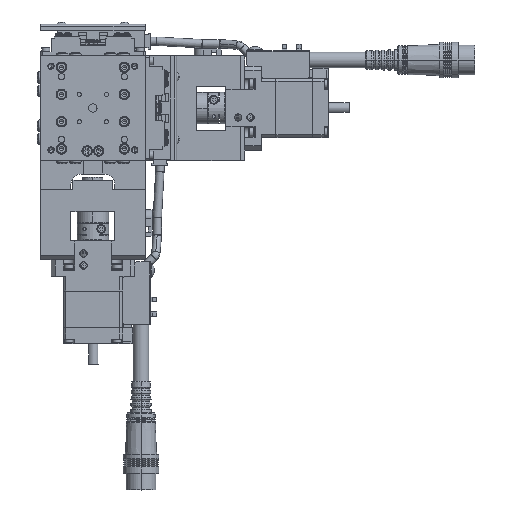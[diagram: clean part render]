
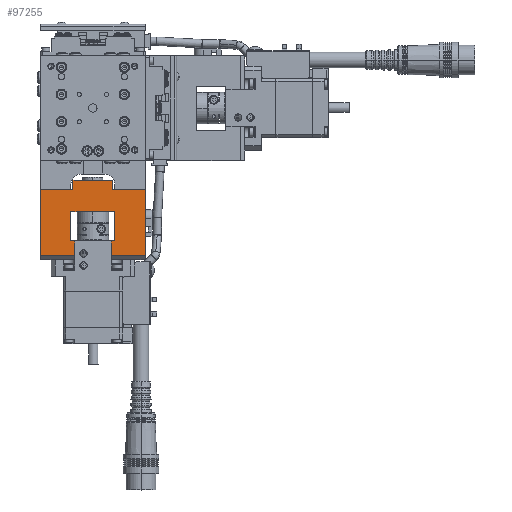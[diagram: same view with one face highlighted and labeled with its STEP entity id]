
A CAD part, top view. The second image highlights one B-rep face of the part: STEP entity #97255.
In plain terms, the highlighted planar face has unit normal (0, 0, 1).
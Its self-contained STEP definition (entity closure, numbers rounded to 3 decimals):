
#432 = DIRECTION ( 'NONE',  ( 0., 0., 1. ) ) ;
#1216 = CARTESIAN_POINT ( 'NONE',  ( -70.5, 8.7, 19.5 ) ) ;
#1342 = CARTESIAN_POINT ( 'NONE',  ( -63.5, 25., 19.5 ) ) ;
#1818 = EDGE_CURVE ( 'NONE', #67215, #54090, #62398, .T. ) ;
#2738 = VECTOR ( 'NONE', #16214, 1000. ) ;
#4122 = VECTOR ( 'NONE', #127087, 1000. ) ;
#4509 = VERTEX_POINT ( 'NONE', #93101 ) ;
#5370 = CARTESIAN_POINT ( 'NONE',  ( -36.75, -9.5, 19.5 ) ) ;
#6045 = CARTESIAN_POINT ( 'NONE',  ( -63.5, 10.5, 19.5 ) ) ;
#6338 = CARTESIAN_POINT ( 'NONE',  ( -70.5, 25., 19.5 ) ) ;
#6468 = DIRECTION ( 'NONE',  ( 0., -1., 0. ) ) ;
#7754 = VERTEX_POINT ( 'NONE', #11234 ) ;
#7864 = CARTESIAN_POINT ( 'NONE',  ( -70.5, -25., 19.5 ) ) ;
#8759 = LINE ( 'NONE', #106724, #109879 ) ;
#9533 = ORIENTED_EDGE ( 'NONE', *, *, #129725, .F. ) ;
#11234 = CARTESIAN_POINT ( 'NONE',  ( -34.5, -9.5, 19.5 ) ) ;
#15376 = LINE ( 'NONE', #6045, #122711 ) ;
#16214 = DIRECTION ( 'NONE',  ( 1., 0., 0. ) ) ;
#16287 = DIRECTION ( 'NONE',  ( 0., 1., 0. ) ) ;
#19554 = VECTOR ( 'NONE', #118898, 1000. ) ;
#20352 = CARTESIAN_POINT ( 'NONE',  ( -63.5, -10.5, 19.5 ) ) ;
#20498 = EDGE_CURVE ( 'NONE', #119091, #82128, #57138, .T. ) ;
#20702 = DIRECTION ( 'NONE',  ( 1., 0., 0. ) ) ;
#21086 = EDGE_CURVE ( 'NONE', #50030, #89975, #50662, .T. ) ;
#21200 = EDGE_CURVE ( 'NONE', #94535, #94541, #80651, .T. ) ;
#21699 = LINE ( 'NONE', #66626, #2738 ) ;
#21986 = PLANE ( 'NONE',  #29981 ) ;
#23200 = CARTESIAN_POINT ( 'NONE',  ( -63.5, -10.5, 19.5 ) ) ;
#23551 = ORIENTED_EDGE ( 'NONE', *, *, #33739, .F. ) ;
#25428 = DIRECTION ( 'NONE',  ( 1., 0., 0. ) ) ;
#26871 = VERTEX_POINT ( 'NONE', #92149 ) ;
#27404 = EDGE_LOOP ( 'NONE', ( #81551, #77213, #79933, #41819, #52484, #93819, #57526, #94349, #108919, #42201, #60903, #129175, #64717, #23551, #9533, #106236 ) ) ;
#29721 = CARTESIAN_POINT ( 'NONE',  ( -63.5, 8.7, 19.5 ) ) ;
#29981 = AXIS2_PLACEMENT_3D ( 'NONE', #1342, #432, #20702 ) ;
#30694 = EDGE_CURVE ( 'NONE', #54090, #84191, #15376, .T. ) ;
#30777 = VECTOR ( 'NONE', #110534, 1000. ) ;
#32990 = DIRECTION ( 'NONE',  ( 1., 0., 0. ) ) ;
#33672 = EDGE_CURVE ( 'NONE', #68950, #82128, #89670, .T. ) ;
#33739 = EDGE_CURVE ( 'NONE', #46252, #7754, #108539, .T. ) ;
#36963 = LINE ( 'NONE', #37775, #19554 ) ;
#37775 = CARTESIAN_POINT ( 'NONE',  ( -68., 8.7, 19.5 ) ) ;
#41707 = EDGE_CURVE ( 'NONE', #89975, #80318, #56717, .T. ) ;
#41819 = ORIENTED_EDGE ( 'NONE', *, *, #1818, .T. ) ;
#42201 = ORIENTED_EDGE ( 'NONE', *, *, #117626, .T. ) ;
#44579 = CARTESIAN_POINT ( 'NONE',  ( -34.5, 0., 19.5 ) ) ;
#46252 = VERTEX_POINT ( 'NONE', #84501 ) ;
#47510 = VECTOR ( 'NONE', #111776, 1000. ) ;
#49898 = LINE ( 'NONE', #5370, #4122 ) ;
#50030 = VERTEX_POINT ( 'NONE', #7864 ) ;
#50662 = LINE ( 'NONE', #108534, #69502 ) ;
#50911 = DIRECTION ( 'NONE',  ( 1., 0., 0. ) ) ;
#52459 = VECTOR ( 'NONE', #106482, 1000. ) ;
#52484 = ORIENTED_EDGE ( 'NONE', *, *, #30694, .T. ) ;
#54090 = VERTEX_POINT ( 'NONE', #112282 ) ;
#54338 = CARTESIAN_POINT ( 'NONE',  ( -63.5, -25., 19.5 ) ) ;
#56698 = CARTESIAN_POINT ( 'NONE',  ( -39., 18.75, 19.5 ) ) ;
#56717 = LINE ( 'NONE', #75956, #125976 ) ;
#57138 = LINE ( 'NONE', #68525, #52459 ) ;
#57169 = CARTESIAN_POINT ( 'NONE',  ( -70.5, 8.7, 19.5 ) ) ;
#57526 = ORIENTED_EDGE ( 'NONE', *, *, #64873, .F. ) ;
#58827 = LINE ( 'NONE', #20352, #123400 ) ;
#59094 = DIRECTION ( 'NONE',  ( 1., 0., 0. ) ) ;
#60903 = ORIENTED_EDGE ( 'NONE', *, *, #21086, .T. ) ;
#62398 = LINE ( 'NONE', #29721, #30777 ) ;
#64717 = ORIENTED_EDGE ( 'NONE', *, *, #72369, .F. ) ;
#64873 = EDGE_CURVE ( 'NONE', #68950, #72812, #58827, .T. ) ;
#66626 = CARTESIAN_POINT ( 'NONE',  ( -36.75, 9.5, 19.5 ) ) ;
#67017 = EDGE_CURVE ( 'NONE', #67215, #94541, #36963, .T. ) ;
#67215 = VERTEX_POINT ( 'NONE', #85408 ) ;
#68525 = CARTESIAN_POINT ( 'NONE',  ( -68., -8.7, 19.5 ) ) ;
#68950 = VERTEX_POINT ( 'NONE', #23200 ) ;
#69502 = VECTOR ( 'NONE', #59094, 1000. ) ;
#70656 = CARTESIAN_POINT ( 'NONE',  ( -49.5, 10.5, 19.5 ) ) ;
#71898 = CARTESIAN_POINT ( 'NONE',  ( -49.5, -10.5, 19.5 ) ) ;
#72369 = EDGE_CURVE ( 'NONE', #7754, #80318, #49898, .T. ) ;
#72812 = VERTEX_POINT ( 'NONE', #71898 ) ;
#75956 = CARTESIAN_POINT ( 'NONE',  ( -39., 18.75, 19.5 ) ) ;
#76743 = DIRECTION ( 'NONE',  ( 0., -1., 0. ) ) ;
#77213 = ORIENTED_EDGE ( 'NONE', *, *, #21200, .T. ) ;
#77793 = DIRECTION ( 'NONE',  ( 0., 1., 0. ) ) ;
#79336 = LINE ( 'NONE', #123379, #115661 ) ;
#79466 = CARTESIAN_POINT ( 'NONE',  ( -70.5, -8.7, 19.5 ) ) ;
#79933 = ORIENTED_EDGE ( 'NONE', *, *, #67017, .F. ) ;
#80318 = VERTEX_POINT ( 'NONE', #116241 ) ;
#80651 = LINE ( 'NONE', #1216, #82192 ) ;
#80863 = CARTESIAN_POINT ( 'NONE',  ( -70.5, -25., 19.5 ) ) ;
#81551 = ORIENTED_EDGE ( 'NONE', *, *, #101664, .F. ) ;
#82128 = VERTEX_POINT ( 'NONE', #88776 ) ;
#82192 = VECTOR ( 'NONE', #121159, 1000. ) ;
#84191 = VERTEX_POINT ( 'NONE', #70656 ) ;
#84501 = CARTESIAN_POINT ( 'NONE',  ( -34.5, 9.5, 19.5 ) ) ;
#85408 = CARTESIAN_POINT ( 'NONE',  ( -63.5, 8.7, 19.5 ) ) ;
#85615 = DIRECTION ( 'NONE',  ( 0., 1., 0. ) ) ;
#85943 = VECTOR ( 'NONE', #77793, 1000. ) ;
#88776 = CARTESIAN_POINT ( 'NONE',  ( -63.5, -8.7, 19.5 ) ) ;
#89670 = LINE ( 'NONE', #54338, #116476 ) ;
#89685 = EDGE_CURVE ( 'NONE', #84191, #72812, #8759, .T. ) ;
#89975 = VERTEX_POINT ( 'NONE', #119777 ) ;
#90384 = EDGE_CURVE ( 'NONE', #4509, #26871, #128507, .T. ) ;
#92149 = CARTESIAN_POINT ( 'NONE',  ( -39., 25., 19.5 ) ) ;
#93101 = CARTESIAN_POINT ( 'NONE',  ( -39., 9.5, 19.5 ) ) ;
#93819 = ORIENTED_EDGE ( 'NONE', *, *, #89685, .T. ) ;
#94349 = ORIENTED_EDGE ( 'NONE', *, *, #33672, .T. ) ;
#94535 = VERTEX_POINT ( 'NONE', #6338 ) ;
#94541 = VERTEX_POINT ( 'NONE', #57169 ) ;
#97255 = ADVANCED_FACE ( 'NONE', ( #115662 ), #21986, .T. ) ;
#101266 = LINE ( 'NONE', #80863, #47510 ) ;
#101664 = EDGE_CURVE ( 'NONE', #94535, #26871, #79336, .T. ) ;
#106236 = ORIENTED_EDGE ( 'NONE', *, *, #90384, .T. ) ;
#106482 = DIRECTION ( 'NONE',  ( 1., 0., 0. ) ) ;
#106724 = CARTESIAN_POINT ( 'NONE',  ( -49.5, 18.75, 19.5 ) ) ;
#106915 = VECTOR ( 'NONE', #76743, 1000. ) ;
#108534 = CARTESIAN_POINT ( 'NONE',  ( -63.5, -25., 19.5 ) ) ;
#108539 = LINE ( 'NONE', #44579, #106915 ) ;
#108919 = ORIENTED_EDGE ( 'NONE', *, *, #20498, .F. ) ;
#109879 = VECTOR ( 'NONE', #6468, 1000. ) ;
#110534 = DIRECTION ( 'NONE',  ( 0., 1., 0. ) ) ;
#111776 = DIRECTION ( 'NONE',  ( 0., -1., 0. ) ) ;
#112282 = CARTESIAN_POINT ( 'NONE',  ( -63.5, 10.5, 19.5 ) ) ;
#115661 = VECTOR ( 'NONE', #32990, 1000. ) ;
#115662 = FACE_OUTER_BOUND ( 'NONE', #27404, .T. ) ;
#116241 = CARTESIAN_POINT ( 'NONE',  ( -39., -9.5, 19.5 ) ) ;
#116476 = VECTOR ( 'NONE', #85615, 1000. ) ;
#117626 = EDGE_CURVE ( 'NONE', #119091, #50030, #101266, .T. ) ;
#118898 = DIRECTION ( 'NONE',  ( -1., 0., 0. ) ) ;
#119091 = VERTEX_POINT ( 'NONE', #79466 ) ;
#119777 = CARTESIAN_POINT ( 'NONE',  ( -39., -25., 19.5 ) ) ;
#121159 = DIRECTION ( 'NONE',  ( 0., -1., 0. ) ) ;
#122711 = VECTOR ( 'NONE', #25428, 1000. ) ;
#123379 = CARTESIAN_POINT ( 'NONE',  ( -63.5, 25., 19.5 ) ) ;
#123400 = VECTOR ( 'NONE', #50911, 1000. ) ;
#125976 = VECTOR ( 'NONE', #16287, 1000. ) ;
#127087 = DIRECTION ( 'NONE',  ( -1., 0., 0. ) ) ;
#128507 = LINE ( 'NONE', #56698, #85943 ) ;
#129175 = ORIENTED_EDGE ( 'NONE', *, *, #41707, .T. ) ;
#129725 = EDGE_CURVE ( 'NONE', #4509, #46252, #21699, .T. ) ;
